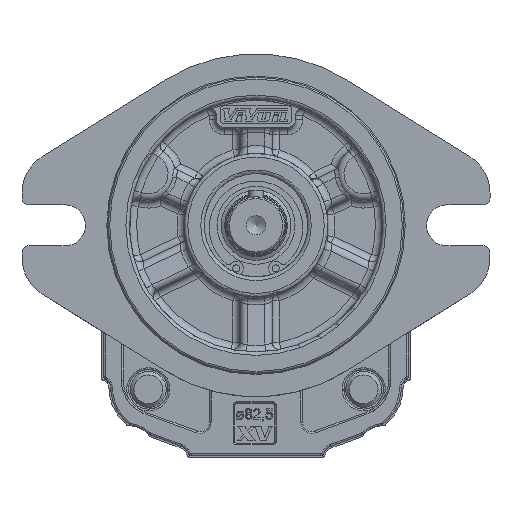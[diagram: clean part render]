
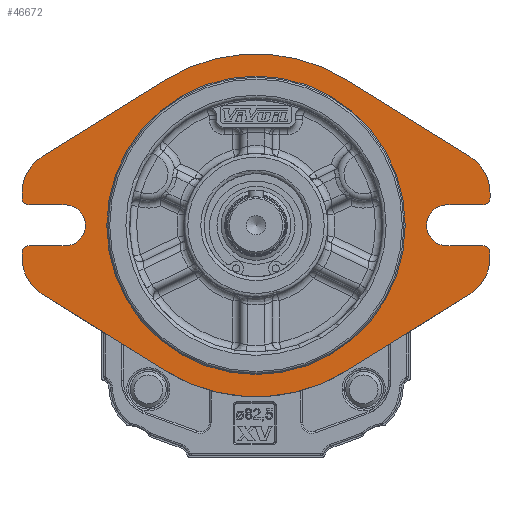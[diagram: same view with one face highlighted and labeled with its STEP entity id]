
A CAD part, front view. The second image highlights one B-rep face of the part: STEP entity #46672.
In plain terms, the highlighted planar face has unit normal (0, -1, 0).
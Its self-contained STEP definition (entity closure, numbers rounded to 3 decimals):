
#2719=LINE('',#65166,#4750);
#2723=LINE('',#65178,#4754);
#2724=LINE('',#65180,#4755);
#2731=LINE('',#65199,#4762);
#2732=LINE('',#65201,#4763);
#2739=LINE('',#65230,#4770);
#2740=LINE('',#65235,#4771);
#2741=LINE('',#65239,#4772);
#2742=LINE('',#65242,#4773);
#2743=LINE('',#65246,#4774);
#2744=LINE('',#65250,#4775);
#2745=LINE('',#65254,#4776);
#4750=VECTOR('',#53701,1000.);
#4754=VECTOR('',#53713,1000.);
#4755=VECTOR('',#53716,1000.);
#4762=VECTOR('',#53731,1000.);
#4763=VECTOR('',#53734,1000.);
#4770=VECTOR('',#53763,1000.);
#4771=VECTOR('',#53766,1000.);
#4772=VECTOR('',#53769,1000.);
#4773=VECTOR('',#53774,1000.);
#4774=VECTOR('',#53777,1000.);
#4775=VECTOR('',#53780,1000.);
#4776=VECTOR('',#53783,1000.);
#6400=PLANE('',#49119);
#9894=ORIENTED_EDGE('',*,*,#18613,.T.);
#9895=ORIENTED_EDGE('',*,*,#18614,.F.);
#9896=ORIENTED_EDGE('',*,*,#18615,.T.);
#9897=ORIENTED_EDGE('',*,*,#18616,.F.);
#9898=ORIENTED_EDGE('',*,*,#18617,.F.);
#9899=ORIENTED_EDGE('',*,*,#18618,.F.);
#9900=ORIENTED_EDGE('',*,*,#18534,.F.);
#9901=ORIENTED_EDGE('',*,*,#18583,.F.);
#9902=ORIENTED_EDGE('',*,*,#18586,.F.);
#9903=ORIENTED_EDGE('',*,*,#18589,.F.);
#9904=ORIENTED_EDGE('',*,*,#18619,.T.);
#9905=ORIENTED_EDGE('',*,*,#18590,.F.);
#9906=ORIENTED_EDGE('',*,*,#18596,.F.);
#9907=ORIENTED_EDGE('',*,*,#18599,.F.);
#9908=ORIENTED_EDGE('',*,*,#18620,.T.);
#9909=ORIENTED_EDGE('',*,*,#18600,.F.);
#9910=ORIENTED_EDGE('',*,*,#18612,.F.);
#9911=ORIENTED_EDGE('',*,*,#18621,.F.);
#9912=ORIENTED_EDGE('',*,*,#18622,.F.);
#9913=ORIENTED_EDGE('',*,*,#18623,.F.);
#9914=ORIENTED_EDGE('',*,*,#18624,.F.);
#9915=ORIENTED_EDGE('',*,*,#18625,.F.);
#9916=ORIENTED_EDGE('',*,*,#18626,.T.);
#9917=ORIENTED_EDGE('',*,*,#18627,.F.);
#9918=ORIENTED_EDGE('',*,*,#18628,.F.);
#18534=EDGE_CURVE('',#23041,#23042,#25637,.T.);
#18583=EDGE_CURVE('',#23084,#23041,#2719,.T.);
#18586=EDGE_CURVE('',#23086,#23084,#25665,.T.);
#18589=EDGE_CURVE('',#23088,#23086,#2723,.T.);
#18590=EDGE_CURVE('',#23089,#23090,#2724,.T.);
#18596=EDGE_CURVE('',#23094,#23089,#25667,.T.);
#18599=EDGE_CURVE('',#23096,#23094,#2731,.T.);
#18600=EDGE_CURVE('',#23097,#23098,#2732,.T.);
#18612=EDGE_CURVE('',#23106,#23097,#25673,.T.);
#18613=EDGE_CURVE('',#23107,#23107,#25674,.T.);
#18614=EDGE_CURVE('',#23108,#23109,#2739,.T.);
#18615=EDGE_CURVE('',#23108,#23110,#25675,.F.);
#18616=EDGE_CURVE('',#23111,#23110,#2740,.T.);
#18617=EDGE_CURVE('',#23112,#23111,#25676,.T.);
#18618=EDGE_CURVE('',#23042,#23112,#2741,.T.);
#18619=EDGE_CURVE('',#23088,#23090,#25677,.F.);
#18620=EDGE_CURVE('',#23096,#23098,#25678,.F.);
#18621=EDGE_CURVE('',#23113,#23106,#2742,.T.);
#18622=EDGE_CURVE('',#23114,#23113,#25679,.T.);
#18623=EDGE_CURVE('',#23115,#23114,#2743,.T.);
#18624=EDGE_CURVE('',#23116,#23115,#25680,.T.);
#18625=EDGE_CURVE('',#23117,#23116,#2744,.T.);
#18626=EDGE_CURVE('',#23117,#23118,#25681,.F.);
#18627=EDGE_CURVE('',#23119,#23118,#2745,.T.);
#18628=EDGE_CURVE('',#23109,#23119,#25682,.T.);
#23041=VERTEX_POINT('',#65066);
#23042=VERTEX_POINT('',#65068);
#23084=VERTEX_POINT('',#65165);
#23086=VERTEX_POINT('',#65171);
#23088=VERTEX_POINT('',#65177);
#23089=VERTEX_POINT('',#65181);
#23090=VERTEX_POINT('',#65182);
#23094=VERTEX_POINT('',#65192);
#23096=VERTEX_POINT('',#65198);
#23097=VERTEX_POINT('',#65202);
#23098=VERTEX_POINT('',#65203);
#23106=VERTEX_POINT('',#65225);
#23107=VERTEX_POINT('',#65229);
#23108=VERTEX_POINT('',#65231);
#23109=VERTEX_POINT('',#65232);
#23110=VERTEX_POINT('',#65234);
#23111=VERTEX_POINT('',#65236);
#23112=VERTEX_POINT('',#65238);
#23113=VERTEX_POINT('',#65243);
#23114=VERTEX_POINT('',#65245);
#23115=VERTEX_POINT('',#65247);
#23116=VERTEX_POINT('',#65249);
#23117=VERTEX_POINT('',#65251);
#23118=VERTEX_POINT('',#65253);
#23119=VERTEX_POINT('',#65255);
#25637=CIRCLE('',#49068,47.75);
#25665=CIRCLE('',#49102,12.);
#25667=CIRCLE('',#49107,5.7);
#25673=CIRCLE('',#49118,12.);
#25674=CIRCLE('',#49120,40.982);
#25675=CIRCLE('',#49121,2.);
#25676=CIRCLE('',#49122,12.);
#25677=CIRCLE('',#49123,2.);
#25678=CIRCLE('',#49124,2.);
#25679=CIRCLE('',#49125,47.75);
#25680=CIRCLE('',#49126,12.);
#25681=CIRCLE('',#49127,2.);
#25682=CIRCLE('',#49128,5.7);
#27327=EDGE_LOOP('',(#9894));
#27328=EDGE_LOOP('',(#9895,#9896,#9897,#9898,#9899,#9900,#9901,#9902,#9903,
#9904,#9905,#9906,#9907,#9908,#9909,#9910,#9911,#9912,#9913,#9914,#9915,
#9916,#9917,#9918));
#29610=FACE_BOUND('',#27327,.T.);
#29611=FACE_BOUND('',#27328,.T.);
#46672=ADVANCED_FACE('',(#29610,#29611),#6400,.F.);
#49068=AXIS2_PLACEMENT_3D('',#65067,#53617,#53618);
#49102=AXIS2_PLACEMENT_3D('',#65172,#53707,#53708);
#49107=AXIS2_PLACEMENT_3D('',#65193,#53725,#53726);
#49118=AXIS2_PLACEMENT_3D('',#65226,#53757,#53758);
#49119=AXIS2_PLACEMENT_3D('',#65227,#53759,#53760);
#49120=AXIS2_PLACEMENT_3D('',#65228,#53761,#53762);
#49121=AXIS2_PLACEMENT_3D('',#65233,#53764,#53765);
#49122=AXIS2_PLACEMENT_3D('',#65237,#53767,#53768);
#49123=AXIS2_PLACEMENT_3D('',#65240,#53770,#53771);
#49124=AXIS2_PLACEMENT_3D('',#65241,#53772,#53773);
#49125=AXIS2_PLACEMENT_3D('',#65244,#53775,#53776);
#49126=AXIS2_PLACEMENT_3D('',#65248,#53778,#53779);
#49127=AXIS2_PLACEMENT_3D('',#65252,#53781,#53782);
#49128=AXIS2_PLACEMENT_3D('',#65256,#53784,#53785);
#53617=DIRECTION('',(0.,1.,0.));
#53618=DIRECTION('',(-1.,0.,0.));
#53701=DIRECTION('',(-0.849,0.,-0.528));
#53707=DIRECTION('',(0.,1.,0.));
#53708=DIRECTION('',(-1.,0.,0.));
#53713=DIRECTION('',(0.,0.,-1.));
#53716=DIRECTION('',(1.,0.,0.));
#53725=DIRECTION('',(0.,-1.,0.));
#53726=DIRECTION('',(1.,0.,0.));
#53731=DIRECTION('',(-1.,0.,0.));
#53734=DIRECTION('',(0.,0.,-1.));
#53757=DIRECTION('',(0.,1.,0.));
#53758=DIRECTION('',(-1.,0.,0.));
#53759=DIRECTION('',(0.,1.,0.));
#53760=DIRECTION('',(0.,0.,-1.));
#53761=DIRECTION('',(0.,1.,0.));
#53762=DIRECTION('',(-1.,0.,0.));
#53763=DIRECTION('',(1.,0.,0.));
#53764=DIRECTION('',(0.,1.,0.));
#53765=DIRECTION('',(0.,0.,-1.));
#53766=DIRECTION('',(0.,0.,1.));
#53767=DIRECTION('',(0.,1.,0.));
#53768=DIRECTION('',(1.,0.,0.));
#53769=DIRECTION('',(-0.849,0.,0.528));
#53770=DIRECTION('',(0.,1.,0.));
#53771=DIRECTION('',(0.,0.,-1.));
#53772=DIRECTION('',(0.,1.,0.));
#53773=DIRECTION('',(0.,0.,-1.));
#53774=DIRECTION('',(0.849,0.,-0.528));
#53775=DIRECTION('',(0.,1.,0.));
#53776=DIRECTION('',(-1.,0.,0.));
#53777=DIRECTION('',(0.849,0.,0.528));
#53778=DIRECTION('',(0.,1.,0.));
#53779=DIRECTION('',(1.,0.,0.));
#53780=DIRECTION('',(0.,0.,1.));
#53781=DIRECTION('',(0.,1.,0.));
#53782=DIRECTION('',(0.,0.,-1.));
#53783=DIRECTION('',(-1.,0.,0.));
#53784=DIRECTION('',(0.,-1.,0.));
#53785=DIRECTION('',(-1.,0.,0.));
#65066=CARTESIAN_POINT('',(25.235,-19.,-24.837));
#65067=CARTESIAN_POINT('',(0.,-19.,15.7));
#65068=CARTESIAN_POINT('',(-25.235,-19.,-24.837));
#65165=CARTESIAN_POINT('',(59.532,-19.,-3.487));
#65166=CARTESIAN_POINT('',(59.532,-19.,-3.487));
#65171=CARTESIAN_POINT('',(65.19,-19.,6.7));
#65172=CARTESIAN_POINT('',(53.19,-19.,6.7));
#65177=CARTESIAN_POINT('',(65.19,-19.,8.));
#65178=CARTESIAN_POINT('',(65.19,-19.,6.7));
#65180=CARTESIAN_POINT('',(53.19,-19.,10.));
#65181=CARTESIAN_POINT('',(53.19,-19.,10.));
#65182=CARTESIAN_POINT('',(63.19,-19.,10.));
#65192=CARTESIAN_POINT('',(53.19,-19.,21.4));
#65193=CARTESIAN_POINT('',(53.19,-19.,15.7));
#65198=CARTESIAN_POINT('',(63.19,-19.,21.4));
#65199=CARTESIAN_POINT('',(53.19,-19.,21.4));
#65201=CARTESIAN_POINT('',(65.19,-19.,24.7));
#65202=CARTESIAN_POINT('',(65.19,-19.,24.7));
#65203=CARTESIAN_POINT('',(65.19,-19.,23.4));
#65225=CARTESIAN_POINT('',(59.532,-19.,34.887));
#65226=CARTESIAN_POINT('',(53.19,-19.,24.7));
#65227=CARTESIAN_POINT('',(0.,-19.,15.7));
#65228=CARTESIAN_POINT('',(0.,-19.,15.7));
#65229=CARTESIAN_POINT('',(-40.982,-19.,15.7));
#65230=CARTESIAN_POINT('',(-53.19,-19.,10.));
#65231=CARTESIAN_POINT('',(-63.19,-19.,10.));
#65232=CARTESIAN_POINT('',(-53.19,-19.,10.));
#65233=CARTESIAN_POINT('',(-63.19,-19.,8.));
#65234=CARTESIAN_POINT('',(-65.19,-19.,8.));
#65235=CARTESIAN_POINT('',(-65.19,-19.,6.7));
#65236=CARTESIAN_POINT('',(-65.19,-19.,6.7));
#65237=CARTESIAN_POINT('',(-53.19,-19.,6.7));
#65238=CARTESIAN_POINT('',(-59.532,-19.,-3.487));
#65239=CARTESIAN_POINT('',(-59.532,-19.,-3.487));
#65240=CARTESIAN_POINT('',(63.19,-19.,8.));
#65241=CARTESIAN_POINT('',(63.19,-19.,23.4));
#65242=CARTESIAN_POINT('',(25.235,-19.,56.237));
#65243=CARTESIAN_POINT('',(25.235,-19.,56.237));
#65244=CARTESIAN_POINT('',(0.,-19.,15.7));
#65245=CARTESIAN_POINT('',(-25.235,-19.,56.237));
#65246=CARTESIAN_POINT('',(-25.235,-19.,56.237));
#65247=CARTESIAN_POINT('',(-59.532,-19.,34.887));
#65248=CARTESIAN_POINT('',(-53.19,-19.,24.7));
#65249=CARTESIAN_POINT('',(-65.19,-19.,24.7));
#65250=CARTESIAN_POINT('',(-65.19,-19.,24.7));
#65251=CARTESIAN_POINT('',(-65.19,-19.,23.4));
#65252=CARTESIAN_POINT('',(-63.19,-19.,23.4));
#65253=CARTESIAN_POINT('',(-63.19,-19.,21.4));
#65254=CARTESIAN_POINT('',(-53.19,-19.,21.4));
#65255=CARTESIAN_POINT('',(-53.19,-19.,21.4));
#65256=CARTESIAN_POINT('',(-53.19,-19.,15.7));
